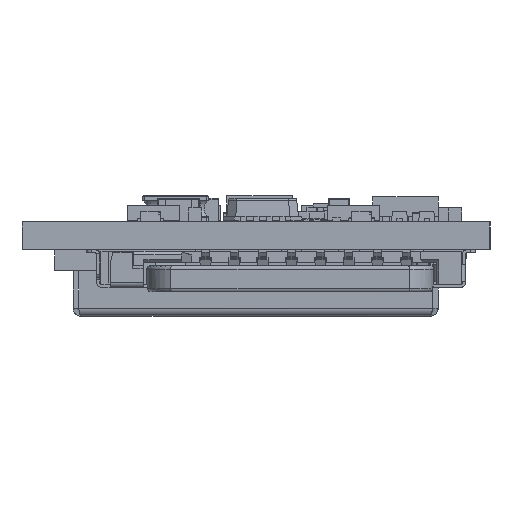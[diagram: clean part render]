
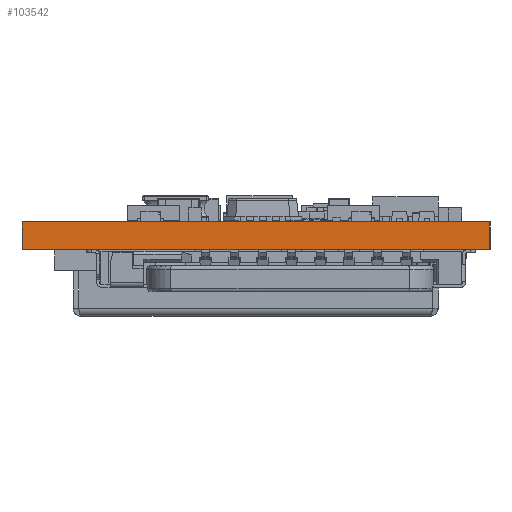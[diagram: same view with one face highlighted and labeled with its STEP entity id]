
A CAD part, left-side view. The second image highlights one B-rep face of the part: STEP entity #103542.
In plain terms, the highlighted planar face has unit normal (-1, -0.001, 0).
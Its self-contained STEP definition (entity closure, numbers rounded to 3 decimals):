
#2061=PLANE('',#110194);
#7205=LINE('',#151740,#19675);
#7436=LINE('',#152820,#19906);
#7437=LINE('',#152821,#19907);
#7438=LINE('',#152822,#19908);
#19675=VECTOR('',#119017,10.);
#19906=VECTOR('',#119384,10.);
#19907=VECTOR('',#119385,10.);
#19908=VECTOR('',#119386,10.);
#33558=FACE_OUTER_BOUND('',#39901,.T.);
#39901=EDGE_LOOP('',(#75076,#75077,#75078,#75079));
#48741=VERTEX_POINT('',#151733);
#48744=VERTEX_POINT('',#151738);
#49014=VERTEX_POINT('',#152818);
#49015=VERTEX_POINT('',#152819);
#58785=EDGE_CURVE('',#48744,#48741,#7205,.T.);
#59092=EDGE_CURVE('',#49014,#49015,#7436,.T.);
#59093=EDGE_CURVE('',#49014,#48741,#7437,.T.);
#59094=EDGE_CURVE('',#49015,#48744,#7438,.T.);
#75076=ORIENTED_EDGE('',*,*,#59092,.F.);
#75077=ORIENTED_EDGE('',*,*,#59093,.T.);
#75078=ORIENTED_EDGE('',*,*,#58785,.F.);
#75079=ORIENTED_EDGE('',*,*,#59094,.F.);
#103542=ADVANCED_FACE('',(#33558),#2061,.T.);
#110194=AXIS2_PLACEMENT_3D('',#152817,#119382,#119383);
#119017=DIRECTION('',(-0.001,1.,0.));
#119382=DIRECTION('center_axis',(-1.,-0.001,
0.));
#119383=DIRECTION('ref_axis',(-0.001,1.,0.));
#119384=DIRECTION('',(0.001,-1.,0.));
#119385=DIRECTION('',(0.,0.,-1.));
#119386=DIRECTION('',(0.,0.,-1.));
#151733=CARTESIAN_POINT('',(-0.01,17.9,0.));
#151738=CARTESIAN_POINT('',(0.,-0.05,0.));
#151740=CARTESIAN_POINT('',(-0.01,17.9,0.));
#152817=CARTESIAN_POINT('Origin',(0.,-0.05,
1.07));
#152818=CARTESIAN_POINT('',(-0.01,17.9,1.07));
#152819=CARTESIAN_POINT('',(0.,-0.05,1.07));
#152820=CARTESIAN_POINT('',(-0.01,17.9,1.07));
#152821=CARTESIAN_POINT('',(-0.01,17.9,1.07));
#152822=CARTESIAN_POINT('',(0.,-0.05,1.07));
